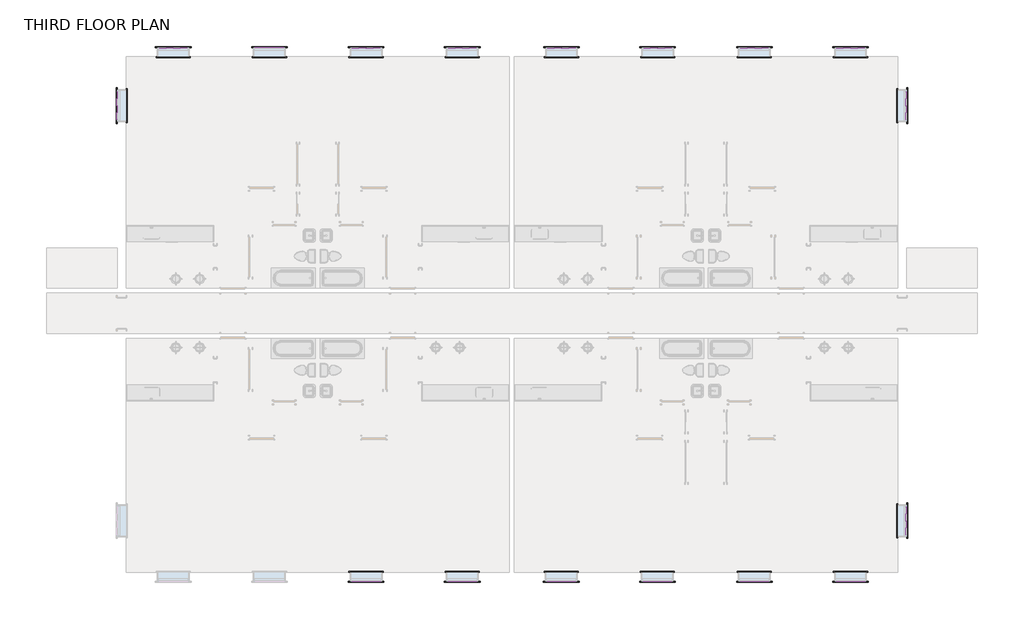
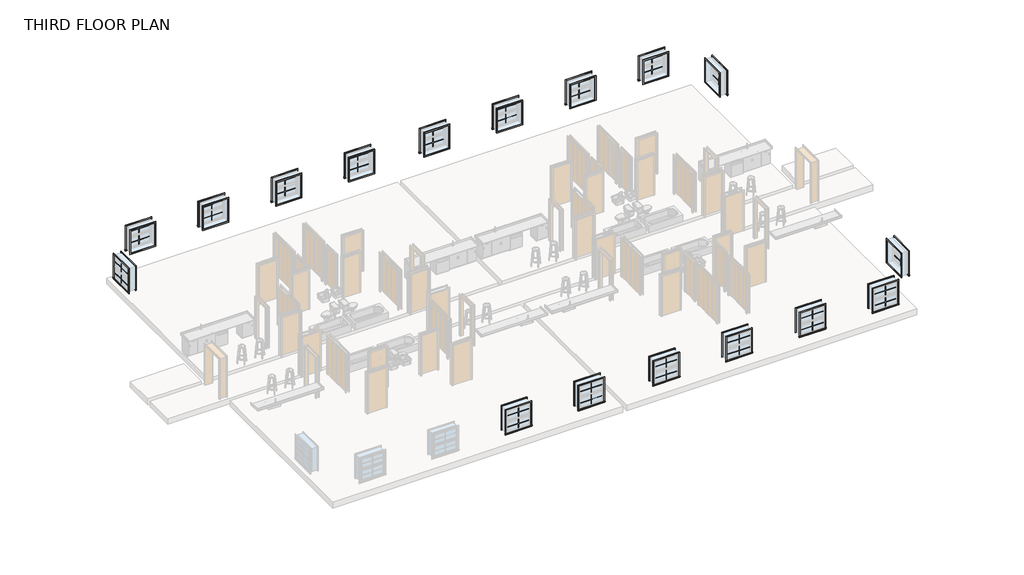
# One storey, part 3 of 3: 68 proxies.
"""IFC4 building model written with IfcOpenShell, lengths in millimetres."""

from ifc_helpers import new_model, si_unit, origin, place, context, project, spatial, transform, mapped, element, save
from components import muntin_pattern_2x2_muntin_pattern_2x2_c44f4804, muntin_pattern_2x2_muntin_pattern_2x2_05dfa543, muntin_pattern_2x2_muntin_pattern_2x2_770224b8, muntin_pattern_2x2_muntin_pattern_2x2_cf99dd86, trim_window_exterior_flat_with_sill_7cfdd449, trim_window_exterior_flat_with_sill_ac84ebb5, trim_window_interior_flat_picture_frame_f1e0b15b, trim_window_interior_flat_picture_frame_caf2db4f

model = new_model("IFC4")

# Units and contexts
model_context = context("Model", 3, world=origin())
ifc_project = project(units=[si_unit("LENGTHUNIT", "METRE", prefix="MILLI")], contexts=[model_context])

# Site, building, storey
site = spatial("IfcSite", under=ifc_project)
building = spatial("IfcBuilding", under=site)
storey = spatial("IfcBuildingStorey", under=building, Name="THIRD FLOOR PLAN", Elevation=5689.6)

# Proxies
placement = place(None, origin())
muntin_pattern_2x2_muntin_pattern_2x2_shape = muntin_pattern_2x2_muntin_pattern_2x2_c44f4804(model_context)
element("IfcBuildingElementProxy", 1, Name="Muntin Pattern_2x2 : Muntin Pattern_2x2", ObjectType="Muntin Pattern_2x2 : Muntin Pattern_2x2", at=placement, inside=storey, context=model_context, shape_type="MappedRepresentation", body=[
    mapped(muntin_pattern_2x2_muntin_pattern_2x2_shape, transform((-5537.3665125, 13431.007194, 7283.45), x_axis=(0.0, 1.0, 0.0), y_axis=(-1.0, 0.0, 0.0), z_axis=(0.0, 0.0, 1.0))),
])
element("IfcBuildingElementProxy", 2, Name="Muntin Pattern_2x2 : Muntin Pattern_2x2", ObjectType="Muntin Pattern_2x2 : Muntin Pattern_2x2", at=placement, inside=storey, context=model_context, shape_type="MappedRepresentation", body=[
    mapped(muntin_pattern_2x2_muntin_pattern_2x2_shape, transform((-3399.0477625, 15644.6887881, 7283.45), x_axis=(1.0, 0.0, 0.0), y_axis=(0.0, 1.0, 0.0), z_axis=(0.0, 0.0, 1.0))),
])
element("IfcBuildingElementProxy", 3, Name="Muntin Pattern_2x2 : Muntin Pattern_2x2", ObjectType="Muntin Pattern_2x2 : Muntin Pattern_2x2", at=placement, inside=storey, context=model_context, shape_type="MappedRepresentation", body=[
    mapped(muntin_pattern_2x2_muntin_pattern_2x2_shape, transform((271.9647375, 15644.6887881, 7283.45), x_axis=(1.0, 0.0, 0.0), y_axis=(0.0, 1.0, 0.0), z_axis=(0.0, 0.0, 1.0))),
])
element("IfcBuildingElementProxy", 4, Name="Muntin Pattern_2x2 : Muntin Pattern_2x2", ObjectType="Muntin Pattern_2x2 : Muntin Pattern_2x2", at=placement, inside=storey, context=model_context, shape_type="MappedRepresentation", body=[
    mapped(muntin_pattern_2x2_muntin_pattern_2x2_shape, transform((7635.6647375, -4742.0612119, 7283.45), x_axis=(-1.0, 0.0, 0.0), y_axis=(0.0, -1.0, 0.0), z_axis=(0.0, 0.0, 1.0))),
])
element("IfcBuildingElementProxy", 5, Name="Muntin Pattern_2x2 : Muntin Pattern_2x2", ObjectType="Muntin Pattern_2x2 : Muntin Pattern_2x2", at=placement, inside=storey, context=model_context, shape_type="MappedRepresentation", body=[
    mapped(muntin_pattern_2x2_muntin_pattern_2x2_shape, transform((3964.6522375, -4742.0612119, 7283.45), x_axis=(-1.0, 0.0, 0.0), y_axis=(0.0, -1.0, 0.0), z_axis=(0.0, 0.0, 1.0))),
])
element("IfcBuildingElementProxy", 6, Name="Muntin Pattern_2x2 : Muntin Pattern_2x2", ObjectType="Muntin Pattern_2x2 : Muntin Pattern_2x2", at=placement, inside=storey, context=model_context, shape_type="MappedRepresentation", body=[
    mapped(muntin_pattern_2x2_muntin_pattern_2x2_shape, transform((24597.5834875, -2431.3796179, 7283.45), x_axis=(0.0, -1.0, 0.0), y_axis=(1.0, 0.0, 0.0), z_axis=(0.0, 0.0, 1.0))),
])
element("IfcBuildingElementProxy", 7, Name="Muntin Pattern_2x2 : Muntin Pattern_2x2", ObjectType="Muntin Pattern_2x2 : Muntin Pattern_2x2", at=placement, inside=storey, context=model_context, shape_type="MappedRepresentation", body=[
    mapped(muntin_pattern_2x2_muntin_pattern_2x2_shape, transform((22460.0647375, -4742.0612119, 7283.45), x_axis=(-1.0, 0.0, 0.0), y_axis=(0.0, -1.0, 0.0), z_axis=(0.0, 0.0, 1.0))),
])
element("IfcBuildingElementProxy", 8, Name="Muntin Pattern_2x2 : Muntin Pattern_2x2", ObjectType="Muntin Pattern_2x2 : Muntin Pattern_2x2", at=placement, inside=storey, context=model_context, shape_type="MappedRepresentation", body=[
    mapped(muntin_pattern_2x2_muntin_pattern_2x2_shape, transform((18789.0522375, -4742.0612119, 7283.45), x_axis=(-1.0, 0.0, 0.0), y_axis=(0.0, -1.0, 0.0), z_axis=(0.0, 0.0, 1.0))),
])
element("IfcBuildingElementProxy", 9, Name="Muntin Pattern_2x2 : Muntin Pattern_2x2", ObjectType="Muntin Pattern_2x2 : Muntin Pattern_2x2", at=placement, inside=storey, context=model_context, shape_type="MappedRepresentation", body=[
    mapped(muntin_pattern_2x2_muntin_pattern_2x2_shape, transform((11425.3522375, 15644.6887881, 7283.45), x_axis=(1.0, 0.0, 0.0), y_axis=(0.0, 1.0, 0.0), z_axis=(0.0, 0.0, 1.0))),
])
element("IfcBuildingElementProxy", 10, Name="Muntin Pattern_2x2 : Muntin Pattern_2x2", ObjectType="Muntin Pattern_2x2 : Muntin Pattern_2x2", at=placement, inside=storey, context=model_context, shape_type="MappedRepresentation", body=[
    mapped(muntin_pattern_2x2_muntin_pattern_2x2_shape, transform((15096.3647375, 15644.6887881, 7283.45), x_axis=(1.0, 0.0, 0.0), y_axis=(0.0, 1.0, 0.0), z_axis=(0.0, 0.0, 1.0))),
])
muntin_pattern_2x2_muntin_pattern_2x2_2_shape = muntin_pattern_2x2_muntin_pattern_2x2_05dfa543(model_context)
element("IfcBuildingElementProxy", 11, Name="Muntin Pattern_2x2 : Muntin Pattern_2x2", ObjectType="Muntin Pattern_2x2 : Muntin Pattern_2x2", at=placement, inside=storey, context=model_context, shape_type="MappedRepresentation", body=[
    mapped(muntin_pattern_2x2_muntin_pattern_2x2_2_shape, transform((-5537.3665125, 13431.007194, 6673.85), x_axis=(0.0, 1.0, 0.0), y_axis=(-1.0, 0.0, 0.0), z_axis=(0.0, 0.0, 1.0))),
])
element("IfcBuildingElementProxy", 12, Name="Muntin Pattern_2x2 : Muntin Pattern_2x2", ObjectType="Muntin Pattern_2x2 : Muntin Pattern_2x2", at=placement, inside=storey, context=model_context, shape_type="MappedRepresentation", body=[
    mapped(muntin_pattern_2x2_muntin_pattern_2x2_2_shape, transform((-3399.0477625, 15644.6887881, 6673.85), x_axis=(1.0, 0.0, 0.0), y_axis=(0.0, 1.0, 0.0), z_axis=(0.0, 0.0, 1.0))),
])
element("IfcBuildingElementProxy", 13, Name="Muntin Pattern_2x2 : Muntin Pattern_2x2", ObjectType="Muntin Pattern_2x2 : Muntin Pattern_2x2", at=placement, inside=storey, context=model_context, shape_type="MappedRepresentation", body=[
    mapped(muntin_pattern_2x2_muntin_pattern_2x2_2_shape, transform((271.9647375, 15644.6887881, 6673.85), x_axis=(1.0, 0.0, 0.0), y_axis=(0.0, 1.0, 0.0), z_axis=(0.0, 0.0, 1.0))),
])
element("IfcBuildingElementProxy", 14, Name="Muntin Pattern_2x2 : Muntin Pattern_2x2", ObjectType="Muntin Pattern_2x2 : Muntin Pattern_2x2", at=placement, inside=storey, context=model_context, shape_type="MappedRepresentation", body=[
    mapped(muntin_pattern_2x2_muntin_pattern_2x2_2_shape, transform((7635.6647375, -4742.0612119, 6673.85), x_axis=(-1.0, 0.0, 0.0), y_axis=(0.0, -1.0, 0.0), z_axis=(0.0, 0.0, 1.0))),
])
element("IfcBuildingElementProxy", 15, Name="Muntin Pattern_2x2 : Muntin Pattern_2x2", ObjectType="Muntin Pattern_2x2 : Muntin Pattern_2x2", at=placement, inside=storey, context=model_context, shape_type="MappedRepresentation", body=[
    mapped(muntin_pattern_2x2_muntin_pattern_2x2_2_shape, transform((3964.6522375, -4742.0612119, 6673.85), x_axis=(-1.0, 0.0, 0.0), y_axis=(0.0, -1.0, 0.0), z_axis=(0.0, 0.0, 1.0))),
])
element("IfcBuildingElementProxy", 16, Name="Muntin Pattern_2x2 : Muntin Pattern_2x2", ObjectType="Muntin Pattern_2x2 : Muntin Pattern_2x2", at=placement, inside=storey, context=model_context, shape_type="MappedRepresentation", body=[
    mapped(muntin_pattern_2x2_muntin_pattern_2x2_2_shape, transform((24597.5834875, -2431.3796179, 6673.85), x_axis=(0.0, -1.0, 0.0), y_axis=(1.0, 0.0, 0.0), z_axis=(0.0, 0.0, 1.0))),
])
element("IfcBuildingElementProxy", 17, Name="Muntin Pattern_2x2 : Muntin Pattern_2x2", ObjectType="Muntin Pattern_2x2 : Muntin Pattern_2x2", at=placement, inside=storey, context=model_context, shape_type="MappedRepresentation", body=[
    mapped(muntin_pattern_2x2_muntin_pattern_2x2_2_shape, transform((22460.0647375, -4742.0612119, 6673.85), x_axis=(-1.0, 0.0, 0.0), y_axis=(0.0, -1.0, 0.0), z_axis=(0.0, 0.0, 1.0))),
])
element("IfcBuildingElementProxy", 18, Name="Muntin Pattern_2x2 : Muntin Pattern_2x2", ObjectType="Muntin Pattern_2x2 : Muntin Pattern_2x2", at=placement, inside=storey, context=model_context, shape_type="MappedRepresentation", body=[
    mapped(muntin_pattern_2x2_muntin_pattern_2x2_2_shape, transform((18789.0522375, -4742.0612119, 6673.85), x_axis=(-1.0, 0.0, 0.0), y_axis=(0.0, -1.0, 0.0), z_axis=(0.0, 0.0, 1.0))),
])
element("IfcBuildingElementProxy", 19, Name="Muntin Pattern_2x2 : Muntin Pattern_2x2", ObjectType="Muntin Pattern_2x2 : Muntin Pattern_2x2", at=placement, inside=storey, context=model_context, shape_type="MappedRepresentation", body=[
    mapped(muntin_pattern_2x2_muntin_pattern_2x2_2_shape, transform((11425.3522375, 15644.6887881, 6673.85), x_axis=(1.0, 0.0, 0.0), y_axis=(0.0, 1.0, 0.0), z_axis=(0.0, 0.0, 1.0))),
])
element("IfcBuildingElementProxy", 20, Name="Muntin Pattern_2x2 : Muntin Pattern_2x2", ObjectType="Muntin Pattern_2x2 : Muntin Pattern_2x2", at=placement, inside=storey, context=model_context, shape_type="MappedRepresentation", body=[
    mapped(muntin_pattern_2x2_muntin_pattern_2x2_2_shape, transform((15096.3647375, 15644.6887881, 6673.85), x_axis=(1.0, 0.0, 0.0), y_axis=(0.0, 1.0, 0.0), z_axis=(0.0, 0.0, 1.0))),
])
muntin_pattern_2x2_muntin_pattern_2x2_3_shape = muntin_pattern_2x2_muntin_pattern_2x2_770224b8(model_context)
element("IfcBuildingElementProxy", 21, Name="Muntin Pattern_2x2 : Muntin Pattern_2x2", ObjectType="Muntin Pattern_2x2 : Muntin Pattern_2x2", at=placement, inside=storey, context=model_context, shape_type="MappedRepresentation", body=[
    mapped(muntin_pattern_2x2_muntin_pattern_2x2_3_shape, transform((7635.6647375, 15644.6887881, 7283.45), x_axis=(-1.0, 0.0, 0.0), y_axis=(0.0, -1.0, 0.0), z_axis=(0.0, 0.0, 1.0))),
])
element("IfcBuildingElementProxy", 22, Name="Muntin Pattern_2x2 : Muntin Pattern_2x2", ObjectType="Muntin Pattern_2x2 : Muntin Pattern_2x2", at=placement, inside=storey, context=model_context, shape_type="MappedRepresentation", body=[
    mapped(muntin_pattern_2x2_muntin_pattern_2x2_3_shape, transform((3964.6522375, 15644.6887881, 7283.45), x_axis=(-1.0, 0.0, 0.0), y_axis=(0.0, -1.0, 0.0), z_axis=(0.0, 0.0, 1.0))),
])
element("IfcBuildingElementProxy", 23, Name="Muntin Pattern_2x2 : Muntin Pattern_2x2", ObjectType="Muntin Pattern_2x2 : Muntin Pattern_2x2", at=placement, inside=storey, context=model_context, shape_type="MappedRepresentation", body=[
    mapped(muntin_pattern_2x2_muntin_pattern_2x2_3_shape, transform((24597.5834875, 13431.007194, 7283.45), x_axis=(0.0, 1.0, 0.0), y_axis=(-1.0, 0.0, 0.0), z_axis=(0.0, 0.0, 1.0))),
])
element("IfcBuildingElementProxy", 24, Name="Muntin Pattern_2x2 : Muntin Pattern_2x2", ObjectType="Muntin Pattern_2x2 : Muntin Pattern_2x2", at=placement, inside=storey, context=model_context, shape_type="MappedRepresentation", body=[
    mapped(muntin_pattern_2x2_muntin_pattern_2x2_3_shape, transform((22460.0647375, 15644.6887881, 7283.45), x_axis=(-1.0, 0.0, 0.0), y_axis=(0.0, -1.0, 0.0), z_axis=(0.0, 0.0, 1.0))),
])
element("IfcBuildingElementProxy", 25, Name="Muntin Pattern_2x2 : Muntin Pattern_2x2", ObjectType="Muntin Pattern_2x2 : Muntin Pattern_2x2", at=placement, inside=storey, context=model_context, shape_type="MappedRepresentation", body=[
    mapped(muntin_pattern_2x2_muntin_pattern_2x2_3_shape, transform((18789.0522375, 15644.6887881, 7283.45), x_axis=(-1.0, 0.0, 0.0), y_axis=(0.0, -1.0, 0.0), z_axis=(0.0, 0.0, 1.0))),
])
element("IfcBuildingElementProxy", 26, Name="Muntin Pattern_2x2 : Muntin Pattern_2x2", ObjectType="Muntin Pattern_2x2 : Muntin Pattern_2x2", at=placement, inside=storey, context=model_context, shape_type="MappedRepresentation", body=[
    mapped(muntin_pattern_2x2_muntin_pattern_2x2_3_shape, transform((11414.5522375, -4742.0612119, 7283.45), x_axis=(1.0, 0.0, 0.0), y_axis=(0.0, 1.0, 0.0), z_axis=(0.0, 0.0, 1.0))),
])
element("IfcBuildingElementProxy", 27, Name="Muntin Pattern_2x2 : Muntin Pattern_2x2", ObjectType="Muntin Pattern_2x2 : Muntin Pattern_2x2", at=placement, inside=storey, context=model_context, shape_type="MappedRepresentation", body=[
    mapped(muntin_pattern_2x2_muntin_pattern_2x2_3_shape, transform((15085.5647375, -4742.0612119, 7283.45), x_axis=(1.0, 0.0, 0.0), y_axis=(0.0, 1.0, 0.0), z_axis=(0.0, 0.0, 1.0))),
])
muntin_pattern_2x2_muntin_pattern_2x2_4_shape = muntin_pattern_2x2_muntin_pattern_2x2_cf99dd86(model_context)
element("IfcBuildingElementProxy", 28, Name="Muntin Pattern_2x2 : Muntin Pattern_2x2", ObjectType="Muntin Pattern_2x2 : Muntin Pattern_2x2", at=placement, inside=storey, context=model_context, shape_type="MappedRepresentation", body=[
    mapped(muntin_pattern_2x2_muntin_pattern_2x2_4_shape, transform((7635.6647375, 15644.6887881, 6673.85), x_axis=(-1.0, 0.0, 0.0), y_axis=(0.0, -1.0, 0.0), z_axis=(0.0, 0.0, 1.0))),
])
element("IfcBuildingElementProxy", 29, Name="Muntin Pattern_2x2 : Muntin Pattern_2x2", ObjectType="Muntin Pattern_2x2 : Muntin Pattern_2x2", at=placement, inside=storey, context=model_context, shape_type="MappedRepresentation", body=[
    mapped(muntin_pattern_2x2_muntin_pattern_2x2_4_shape, transform((3964.6522375, 15644.6887881, 6673.85), x_axis=(-1.0, 0.0, 0.0), y_axis=(0.0, -1.0, 0.0), z_axis=(0.0, 0.0, 1.0))),
])
element("IfcBuildingElementProxy", 30, Name="Muntin Pattern_2x2 : Muntin Pattern_2x2", ObjectType="Muntin Pattern_2x2 : Muntin Pattern_2x2", at=placement, inside=storey, context=model_context, shape_type="MappedRepresentation", body=[
    mapped(muntin_pattern_2x2_muntin_pattern_2x2_4_shape, transform((24597.5834875, 13431.007194, 6673.85), x_axis=(0.0, 1.0, 0.0), y_axis=(-1.0, 0.0, 0.0), z_axis=(0.0, 0.0, 1.0))),
])
element("IfcBuildingElementProxy", 31, Name="Muntin Pattern_2x2 : Muntin Pattern_2x2", ObjectType="Muntin Pattern_2x2 : Muntin Pattern_2x2", at=placement, inside=storey, context=model_context, shape_type="MappedRepresentation", body=[
    mapped(muntin_pattern_2x2_muntin_pattern_2x2_4_shape, transform((22460.0647375, 15644.6887881, 6673.85), x_axis=(-1.0, 0.0, 0.0), y_axis=(0.0, -1.0, 0.0), z_axis=(0.0, 0.0, 1.0))),
])
element("IfcBuildingElementProxy", 32, Name="Muntin Pattern_2x2 : Muntin Pattern_2x2", ObjectType="Muntin Pattern_2x2 : Muntin Pattern_2x2", at=placement, inside=storey, context=model_context, shape_type="MappedRepresentation", body=[
    mapped(muntin_pattern_2x2_muntin_pattern_2x2_4_shape, transform((18789.0522375, 15644.6887881, 6673.85), x_axis=(-1.0, 0.0, 0.0), y_axis=(0.0, -1.0, 0.0), z_axis=(0.0, 0.0, 1.0))),
])
element("IfcBuildingElementProxy", 33, Name="Muntin Pattern_2x2 : Muntin Pattern_2x2", ObjectType="Muntin Pattern_2x2 : Muntin Pattern_2x2", at=placement, inside=storey, context=model_context, shape_type="MappedRepresentation", body=[
    mapped(muntin_pattern_2x2_muntin_pattern_2x2_4_shape, transform((11414.5522375, -4742.0612119, 6673.85), x_axis=(1.0, 0.0, 0.0), y_axis=(0.0, 1.0, 0.0), z_axis=(0.0, 0.0, 1.0))),
])
element("IfcBuildingElementProxy", 34, Name="Muntin Pattern_2x2 : Muntin Pattern_2x2", ObjectType="Muntin Pattern_2x2 : Muntin Pattern_2x2", at=placement, inside=storey, context=model_context, shape_type="MappedRepresentation", body=[
    mapped(muntin_pattern_2x2_muntin_pattern_2x2_4_shape, transform((15085.5647375, -4742.0612119, 6673.85), x_axis=(1.0, 0.0, 0.0), y_axis=(0.0, 1.0, 0.0), z_axis=(0.0, 0.0, 1.0))),
])
trim_window_exterior_flat_with_sill_shape = trim_window_exterior_flat_with_sill_7cfdd449(model_context)
element("IfcBuildingElementProxy", 35, Name="Trim-Window-Exterior-Flat : with Sill", ObjectType="Trim-Window-Exterior-Flat : with Sill", at=placement, inside=storey, context=model_context, shape_type="MappedRepresentation", body=[
    mapped(trim_window_exterior_flat_with_sill_shape, transform((-5546.8915125, 13431.007194, 7823.2), x_axis=(0.0, -1.0, 0.0), y_axis=(0.0, 0.0, 1.0), z_axis=(-1.0, 0.0, 0.0))),
])
element("IfcBuildingElementProxy", 36, Name="Trim-Window-Exterior-Flat : with Sill", ObjectType="Trim-Window-Exterior-Flat : with Sill", at=placement, inside=storey, context=model_context, shape_type="MappedRepresentation", body=[
    mapped(trim_window_exterior_flat_with_sill_shape, transform((-3399.0477625, 15654.2137881, 7823.2), x_axis=(-1.0, 0.0, 0.0), y_axis=(0.0, 0.0, 1.0), z_axis=(0.0, 1.0, 0.0))),
])
element("IfcBuildingElementProxy", 37, Name="Trim-Window-Exterior-Flat : with Sill", ObjectType="Trim-Window-Exterior-Flat : with Sill", at=placement, inside=storey, context=model_context, shape_type="MappedRepresentation", body=[
    mapped(trim_window_exterior_flat_with_sill_shape, transform((271.9647375, 15654.2137881, 7823.2), x_axis=(-1.0, 0.0, 0.0), y_axis=(0.0, 0.0, 1.0), z_axis=(0.0, 1.0, 0.0))),
])
element("IfcBuildingElementProxy", 38, Name="Trim-Window-Exterior-Flat : with Sill", ObjectType="Trim-Window-Exterior-Flat : with Sill", at=placement, inside=storey, context=model_context, shape_type="MappedRepresentation", body=[
    mapped(trim_window_exterior_flat_with_sill_shape, transform((7635.6647375, -4751.5862119, 7823.2), x_axis=(1.0, 0.0, 0.0), y_axis=(0.0, 0.0, 1.0), z_axis=(0.0, -1.0, 0.0))),
])
element("IfcBuildingElementProxy", 39, Name="Trim-Window-Exterior-Flat : with Sill", ObjectType="Trim-Window-Exterior-Flat : with Sill", at=placement, inside=storey, context=model_context, shape_type="MappedRepresentation", body=[
    mapped(trim_window_exterior_flat_with_sill_shape, transform((3964.6522375, -4751.5862119, 7823.2), x_axis=(1.0, 0.0, 0.0), y_axis=(0.0, 0.0, 1.0), z_axis=(0.0, -1.0, 0.0))),
])
element("IfcBuildingElementProxy", 40, Name="Trim-Window-Exterior-Flat : with Sill", ObjectType="Trim-Window-Exterior-Flat : with Sill", at=placement, inside=storey, context=model_context, shape_type="MappedRepresentation", body=[
    mapped(trim_window_exterior_flat_with_sill_shape, transform((24607.1084875, -2431.3796179, 7823.2), x_axis=(0.0, 1.0, 0.0), y_axis=(0.0, 0.0, 1.0), z_axis=(1.0, 0.0, 0.0))),
])
element("IfcBuildingElementProxy", 41, Name="Trim-Window-Exterior-Flat : with Sill", ObjectType="Trim-Window-Exterior-Flat : with Sill", at=placement, inside=storey, context=model_context, shape_type="MappedRepresentation", body=[
    mapped(trim_window_exterior_flat_with_sill_shape, transform((22460.0647375, -4751.5862119, 7823.2), x_axis=(1.0, 0.0, 0.0), y_axis=(0.0, 0.0, 1.0), z_axis=(0.0, -1.0, 0.0))),
])
element("IfcBuildingElementProxy", 42, Name="Trim-Window-Exterior-Flat : with Sill", ObjectType="Trim-Window-Exterior-Flat : with Sill", at=placement, inside=storey, context=model_context, shape_type="MappedRepresentation", body=[
    mapped(trim_window_exterior_flat_with_sill_shape, transform((18789.0522375, -4751.5862119, 7823.2), x_axis=(1.0, 0.0, 0.0), y_axis=(0.0, 0.0, 1.0), z_axis=(0.0, -1.0, 0.0))),
])
element("IfcBuildingElementProxy", 43, Name="Trim-Window-Exterior-Flat : with Sill", ObjectType="Trim-Window-Exterior-Flat : with Sill", at=placement, inside=storey, context=model_context, shape_type="MappedRepresentation", body=[
    mapped(trim_window_exterior_flat_with_sill_shape, transform((11425.3522375, 15654.2137881, 7823.2), x_axis=(-1.0, 0.0, 0.0), y_axis=(0.0, 0.0, 1.0), z_axis=(0.0, 1.0, 0.0))),
])
element("IfcBuildingElementProxy", 44, Name="Trim-Window-Exterior-Flat : with Sill", ObjectType="Trim-Window-Exterior-Flat : with Sill", at=placement, inside=storey, context=model_context, shape_type="MappedRepresentation", body=[
    mapped(trim_window_exterior_flat_with_sill_shape, transform((15096.3647375, 15654.2137881, 7823.2), x_axis=(-1.0, 0.0, 0.0), y_axis=(0.0, 0.0, 1.0), z_axis=(0.0, 1.0, 0.0))),
])
trim_window_exterior_flat_with_sill_2_shape = trim_window_exterior_flat_with_sill_ac84ebb5(model_context)
element("IfcBuildingElementProxy", 45, Name="Trim-Window-Exterior-Flat : with Sill", ObjectType="Trim-Window-Exterior-Flat : with Sill", at=placement, inside=storey, context=model_context, shape_type="MappedRepresentation", body=[
    mapped(trim_window_exterior_flat_with_sill_2_shape, transform((7635.6647375, 15654.2137881, 7823.2), x_axis=(1.0, 0.0, 0.0), y_axis=(0.0, 0.0, -1.0), z_axis=(0.0, 1.0, 0.0))),
])
element("IfcBuildingElementProxy", 46, Name="Trim-Window-Exterior-Flat : with Sill", ObjectType="Trim-Window-Exterior-Flat : with Sill", at=placement, inside=storey, context=model_context, shape_type="MappedRepresentation", body=[
    mapped(trim_window_exterior_flat_with_sill_2_shape, transform((3964.6522375, 15654.2137881, 7823.2), x_axis=(1.0, 0.0, 0.0), y_axis=(0.0, 0.0, -1.0), z_axis=(0.0, 1.0, 0.0))),
])
element("IfcBuildingElementProxy", 47, Name="Trim-Window-Exterior-Flat : with Sill", ObjectType="Trim-Window-Exterior-Flat : with Sill", at=placement, inside=storey, context=model_context, shape_type="MappedRepresentation", body=[
    mapped(trim_window_exterior_flat_with_sill_2_shape, transform((24607.1084875, 13431.007194, 7823.2), x_axis=(0.0, -1.0, 0.0), y_axis=(0.0, 0.0, -1.0), z_axis=(1.0, 0.0, 0.0))),
])
element("IfcBuildingElementProxy", 48, Name="Trim-Window-Exterior-Flat : with Sill", ObjectType="Trim-Window-Exterior-Flat : with Sill", at=placement, inside=storey, context=model_context, shape_type="MappedRepresentation", body=[
    mapped(trim_window_exterior_flat_with_sill_2_shape, transform((22460.0647375, 15654.2137881, 7823.2), x_axis=(1.0, 0.0, 0.0), y_axis=(0.0, 0.0, -1.0), z_axis=(0.0, 1.0, 0.0))),
])
element("IfcBuildingElementProxy", 49, Name="Trim-Window-Exterior-Flat : with Sill", ObjectType="Trim-Window-Exterior-Flat : with Sill", at=placement, inside=storey, context=model_context, shape_type="MappedRepresentation", body=[
    mapped(trim_window_exterior_flat_with_sill_2_shape, transform((18789.0522375, 15654.2137881, 7823.2), x_axis=(1.0, 0.0, 0.0), y_axis=(0.0, 0.0, -1.0), z_axis=(0.0, 1.0, 0.0))),
])
element("IfcBuildingElementProxy", 50, Name="Trim-Window-Exterior-Flat : with Sill", ObjectType="Trim-Window-Exterior-Flat : with Sill", at=placement, inside=storey, context=model_context, shape_type="MappedRepresentation", body=[
    mapped(trim_window_exterior_flat_with_sill_2_shape, transform((11414.5522375, -4751.5862119, 7823.2), x_axis=(-1.0, 0.0, 0.0), y_axis=(0.0, 0.0, -1.0), z_axis=(0.0, -1.0, 0.0))),
])
element("IfcBuildingElementProxy", 51, Name="Trim-Window-Exterior-Flat : with Sill", ObjectType="Trim-Window-Exterior-Flat : with Sill", at=placement, inside=storey, context=model_context, shape_type="MappedRepresentation", body=[
    mapped(trim_window_exterior_flat_with_sill_2_shape, transform((15085.5647375, -4751.5862119, 7823.2), x_axis=(-1.0, 0.0, 0.0), y_axis=(0.0, 0.0, -1.0), z_axis=(0.0, -1.0, 0.0))),
])
trim_window_interior_flat_picture_frame_shape = trim_window_interior_flat_picture_frame_f1e0b15b(model_context)
element("IfcBuildingElementProxy", 52, Name="Trim-Window-Interior-Flat : Picture Frame", ObjectType="Trim-Window-Interior-Flat : Picture Frame", at=placement, inside=storey, context=model_context, shape_type="MappedRepresentation", body=[
    mapped(trim_window_interior_flat_picture_frame_shape, transform((-5196.8915125, 13431.007194, 7823.2), x_axis=(0.0, 1.0, 0.0), y_axis=(0.0, 0.0, 1.0), z_axis=(1.0, 0.0, 0.0))),
])
element("IfcBuildingElementProxy", 53, Name="Trim-Window-Interior-Flat : Picture Frame", ObjectType="Trim-Window-Interior-Flat : Picture Frame", at=placement, inside=storey, context=model_context, shape_type="MappedRepresentation", body=[
    mapped(trim_window_interior_flat_picture_frame_shape, transform((-3399.0477625, 15304.2137881, 7823.2), x_axis=(1.0, 0.0, 0.0), y_axis=(0.0, 0.0, 1.0), z_axis=(0.0, -1.0, 0.0))),
])
element("IfcBuildingElementProxy", 54, Name="Trim-Window-Interior-Flat : Picture Frame", ObjectType="Trim-Window-Interior-Flat : Picture Frame", at=placement, inside=storey, context=model_context, shape_type="MappedRepresentation", body=[
    mapped(trim_window_interior_flat_picture_frame_shape, transform((271.9647375, 15304.2137881, 7823.2), x_axis=(1.0, 0.0, 0.0), y_axis=(0.0, 0.0, 1.0), z_axis=(0.0, -1.0, 0.0))),
])
element("IfcBuildingElementProxy", 55, Name="Trim-Window-Interior-Flat : Picture Frame", ObjectType="Trim-Window-Interior-Flat : Picture Frame", at=placement, inside=storey, context=model_context, shape_type="MappedRepresentation", body=[
    mapped(trim_window_interior_flat_picture_frame_shape, transform((7635.6647375, -4401.5862119, 7823.2), x_axis=(-1.0, 0.0, 0.0), y_axis=(0.0, 0.0, 1.0), z_axis=(0.0, 1.0, 0.0))),
])
element("IfcBuildingElementProxy", 56, Name="Trim-Window-Interior-Flat : Picture Frame", ObjectType="Trim-Window-Interior-Flat : Picture Frame", at=placement, inside=storey, context=model_context, shape_type="MappedRepresentation", body=[
    mapped(trim_window_interior_flat_picture_frame_shape, transform((3964.6522375, -4401.5862119, 7823.2), x_axis=(-1.0, 0.0, 0.0), y_axis=(0.0, 0.0, 1.0), z_axis=(0.0, 1.0, 0.0))),
])
element("IfcBuildingElementProxy", 57, Name="Trim-Window-Interior-Flat : Picture Frame", ObjectType="Trim-Window-Interior-Flat : Picture Frame", at=placement, inside=storey, context=model_context, shape_type="MappedRepresentation", body=[
    mapped(trim_window_interior_flat_picture_frame_shape, transform((24257.1084875, -2431.3796179, 7823.2), x_axis=(0.0, -1.0, 0.0), y_axis=(0.0, 0.0, 1.0), z_axis=(-1.0, 0.0, 0.0))),
])
element("IfcBuildingElementProxy", 58, Name="Trim-Window-Interior-Flat : Picture Frame", ObjectType="Trim-Window-Interior-Flat : Picture Frame", at=placement, inside=storey, context=model_context, shape_type="MappedRepresentation", body=[
    mapped(trim_window_interior_flat_picture_frame_shape, transform((22460.0647375, -4401.5862119, 7823.2), x_axis=(-1.0, 0.0, 0.0), y_axis=(0.0, 0.0, 1.0), z_axis=(0.0, 1.0, 0.0))),
])
element("IfcBuildingElementProxy", 59, Name="Trim-Window-Interior-Flat : Picture Frame", ObjectType="Trim-Window-Interior-Flat : Picture Frame", at=placement, inside=storey, context=model_context, shape_type="MappedRepresentation", body=[
    mapped(trim_window_interior_flat_picture_frame_shape, transform((18789.0522375, -4401.5862119, 7823.2), x_axis=(-1.0, 0.0, 0.0), y_axis=(0.0, 0.0, 1.0), z_axis=(0.0, 1.0, 0.0))),
])
element("IfcBuildingElementProxy", 60, Name="Trim-Window-Interior-Flat : Picture Frame", ObjectType="Trim-Window-Interior-Flat : Picture Frame", at=placement, inside=storey, context=model_context, shape_type="MappedRepresentation", body=[
    mapped(trim_window_interior_flat_picture_frame_shape, transform((11425.3522375, 15304.2137881, 7823.2), x_axis=(1.0, 0.0, 0.0), y_axis=(0.0, 0.0, 1.0), z_axis=(0.0, -1.0, 0.0))),
])
element("IfcBuildingElementProxy", 61, Name="Trim-Window-Interior-Flat : Picture Frame", ObjectType="Trim-Window-Interior-Flat : Picture Frame", at=placement, inside=storey, context=model_context, shape_type="MappedRepresentation", body=[
    mapped(trim_window_interior_flat_picture_frame_shape, transform((15096.3647375, 15304.2137881, 7823.2), x_axis=(1.0, 0.0, 0.0), y_axis=(0.0, 0.0, 1.0), z_axis=(0.0, -1.0, 0.0))),
])
trim_window_interior_flat_picture_frame_2_shape = trim_window_interior_flat_picture_frame_caf2db4f(model_context)
element("IfcBuildingElementProxy", 62, Name="Trim-Window-Interior-Flat : Picture Frame", ObjectType="Trim-Window-Interior-Flat : Picture Frame", at=placement, inside=storey, context=model_context, shape_type="MappedRepresentation", body=[
    mapped(trim_window_interior_flat_picture_frame_2_shape, transform((7635.6647375, 15304.2137881, 7823.2), x_axis=(-1.0, 0.0, 0.0), y_axis=(0.0, 0.0, -1.0), z_axis=(0.0, -1.0, 0.0))),
])
element("IfcBuildingElementProxy", 63, Name="Trim-Window-Interior-Flat : Picture Frame", ObjectType="Trim-Window-Interior-Flat : Picture Frame", at=placement, inside=storey, context=model_context, shape_type="MappedRepresentation", body=[
    mapped(trim_window_interior_flat_picture_frame_2_shape, transform((3964.6522375, 15304.2137881, 7823.2), x_axis=(-1.0, 0.0, 0.0), y_axis=(0.0, 0.0, -1.0), z_axis=(0.0, -1.0, 0.0))),
])
element("IfcBuildingElementProxy", 64, Name="Trim-Window-Interior-Flat : Picture Frame", ObjectType="Trim-Window-Interior-Flat : Picture Frame", at=placement, inside=storey, context=model_context, shape_type="MappedRepresentation", body=[
    mapped(trim_window_interior_flat_picture_frame_2_shape, transform((24257.1084875, 13431.007194, 7823.2), x_axis=(0.0, 1.0, 0.0), y_axis=(0.0, 0.0, -1.0), z_axis=(-1.0, 0.0, 0.0))),
])
element("IfcBuildingElementProxy", 65, Name="Trim-Window-Interior-Flat : Picture Frame", ObjectType="Trim-Window-Interior-Flat : Picture Frame", at=placement, inside=storey, context=model_context, shape_type="MappedRepresentation", body=[
    mapped(trim_window_interior_flat_picture_frame_2_shape, transform((22460.0647375, 15304.2137881, 7823.2), x_axis=(-1.0, 0.0, 0.0), y_axis=(0.0, 0.0, -1.0), z_axis=(0.0, -1.0, 0.0))),
])
element("IfcBuildingElementProxy", 66, Name="Trim-Window-Interior-Flat : Picture Frame", ObjectType="Trim-Window-Interior-Flat : Picture Frame", at=placement, inside=storey, context=model_context, shape_type="MappedRepresentation", body=[
    mapped(trim_window_interior_flat_picture_frame_2_shape, transform((18789.0522375, 15304.2137881, 7823.2), x_axis=(-1.0, 0.0, 0.0), y_axis=(0.0, 0.0, -1.0), z_axis=(0.0, -1.0, 0.0))),
])
element("IfcBuildingElementProxy", 67, Name="Trim-Window-Interior-Flat : Picture Frame", ObjectType="Trim-Window-Interior-Flat : Picture Frame", at=placement, inside=storey, context=model_context, shape_type="MappedRepresentation", body=[
    mapped(trim_window_interior_flat_picture_frame_2_shape, transform((11414.5522375, -4401.5862119, 7823.2), x_axis=(1.0, 0.0, 0.0), y_axis=(0.0, 0.0, -1.0), z_axis=(0.0, 1.0, 0.0))),
])
element("IfcBuildingElementProxy", 68, Name="Trim-Window-Interior-Flat : Picture Frame", ObjectType="Trim-Window-Interior-Flat : Picture Frame", at=placement, inside=storey, context=model_context, shape_type="MappedRepresentation", body=[
    mapped(trim_window_interior_flat_picture_frame_2_shape, transform((15085.5647375, -4401.5862119, 7823.2), x_axis=(1.0, 0.0, 0.0), y_axis=(0.0, 0.0, -1.0), z_axis=(0.0, 1.0, 0.0))),
])

save(model, "model.ifc")
